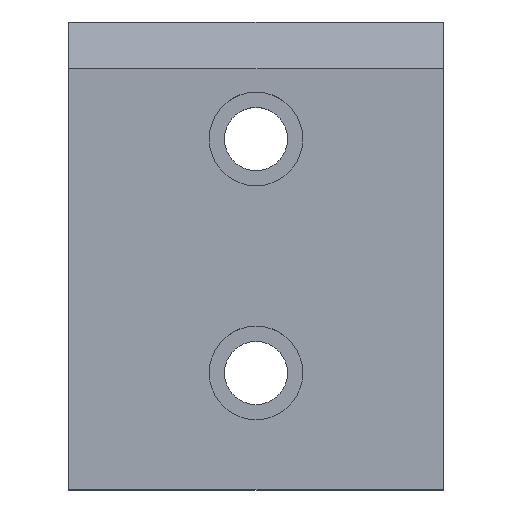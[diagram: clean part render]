
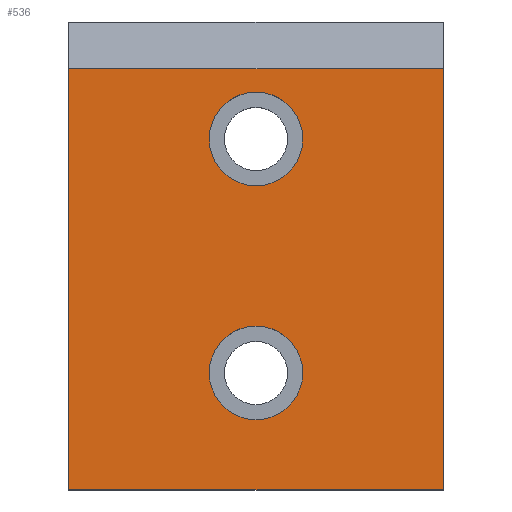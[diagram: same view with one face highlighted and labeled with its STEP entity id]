
A CAD part, top view. The second image highlights one B-rep face of the part: STEP entity #536.
In plain terms, the highlighted planar face has unit normal (0, 0, 1).
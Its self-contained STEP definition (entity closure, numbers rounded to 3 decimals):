
#2 = EDGE_CURVE ( 'NONE', #275, #46, #84, .T. ) ;
#13 = VERTEX_POINT ( 'NONE', #318 ) ;
#16 = ORIENTED_EDGE ( 'NONE', *, *, #2, .T. ) ;
#17 = CARTESIAN_POINT ( 'NONE',  ( 32.034, -19.498, 20. ) ) ;
#25 = CARTESIAN_POINT ( 'NONE',  ( -17.966, -39.498, 20. ) ) ;
#29 = AXIS2_PLACEMENT_3D ( 'NONE', #563, #171, #163 ) ;
#43 = AXIS2_PLACEMENT_3D ( 'NONE', #296, #298, #299 ) ;
#46 = VERTEX_POINT ( 'NONE', #468 ) ;
#52 = CARTESIAN_POINT ( 'NONE',  ( -7.966, 10.502, 20. ) ) ;
#54 = VERTEX_POINT ( 'NONE', #103 ) ;
#62 = EDGE_CURVE ( 'NONE', #13, #550, #144, .T. ) ;
#67 = VERTEX_POINT ( 'NONE', #575 ) ;
#77 = EDGE_CURVE ( 'NONE', #67, #275, #166, .T. ) ;
#81 = DIRECTION ( 'NONE',  ( 0., 0., 1. ) ) ;
#84 = LINE ( 'NONE', #17, #88 ) ;
#86 = AXIS2_PLACEMENT_3D ( 'NONE', #562, #494, #501 ) ;
#88 = VECTOR ( 'NONE', #525, 1000. ) ;
#89 = DIRECTION ( 'NONE',  ( 1., 0., 0. ) ) ;
#103 = CARTESIAN_POINT ( 'NONE',  ( 2.034, 10.502, 20. ) ) ;
#122 = ORIENTED_EDGE ( 'NONE', *, *, #482, .F. ) ;
#124 = CIRCLE ( 'NONE', #315, 10. ) ;
#127 = ORIENTED_EDGE ( 'NONE', *, *, #306, .F. ) ;
#134 = CARTESIAN_POINT ( 'NONE',  ( -7.966, 25.502, 20. ) ) ;
#139 = CARTESIAN_POINT ( 'NONE',  ( -17.966, 10.502, 20. ) ) ;
#144 = CIRCLE ( 'NONE', #86, 10. ) ;
#155 = DIRECTION ( 'NONE',  ( -1., 0., 0. ) ) ;
#158 = ORIENTED_EDGE ( 'NONE', *, *, #62, .F. ) ;
#163 = DIRECTION ( 'NONE',  ( 1., 0., 0. ) ) ;
#166 = LINE ( 'NONE', #246, #182 ) ;
#171 = DIRECTION ( 'NONE',  ( 0., 0., 1. ) ) ;
#177 = ORIENTED_EDGE ( 'NONE', *, *, #77, .T. ) ;
#182 = VECTOR ( 'NONE', #89, 1000. ) ;
#183 = AXIS2_PLACEMENT_3D ( 'NONE', #52, #81, #513 ) ;
#189 = VECTOR ( 'NONE', #316, 1000. ) ;
#193 = VERTEX_POINT ( 'NONE', #139 ) ;
#195 = EDGE_CURVE ( 'NONE', #46, #488, #321, .T. ) ;
#200 = EDGE_LOOP ( 'NONE', ( #122, #127 ) ) ;
#204 = FACE_BOUND ( 'NONE', #200, .T. ) ;
#214 = FACE_BOUND ( 'NONE', #430, .T. ) ;
#241 = CIRCLE ( 'NONE', #183, 10. ) ;
#246 = CARTESIAN_POINT ( 'NONE',  ( -7.966, -64.498, 20. ) ) ;
#256 = CARTESIAN_POINT ( 'NONE',  ( 32.034, -64.498, 20. ) ) ;
#258 = FACE_OUTER_BOUND ( 'NONE', #416, .T. ) ;
#275 = VERTEX_POINT ( 'NONE', #256 ) ;
#296 = CARTESIAN_POINT ( 'NONE',  ( -7.966, 10.502, 20. ) ) ;
#298 = DIRECTION ( 'NONE',  ( 0., 0., 1. ) ) ;
#299 = DIRECTION ( 'NONE',  ( 1., 0., 0. ) ) ;
#306 = EDGE_CURVE ( 'NONE', #193, #54, #399, .T. ) ;
#315 = AXIS2_PLACEMENT_3D ( 'NONE', #519, #503, #477 ) ;
#316 = DIRECTION ( 'NONE',  ( 0., -1., 0. ) ) ;
#318 = CARTESIAN_POINT ( 'NONE',  ( 2.034, -39.498, 20. ) ) ;
#321 = LINE ( 'NONE', #134, #324 ) ;
#324 = VECTOR ( 'NONE', #155, 1000. ) ;
#369 = ORIENTED_EDGE ( 'NONE', *, *, #520, .T. ) ;
#391 = CARTESIAN_POINT ( 'NONE',  ( -47.966, -19.498, 20. ) ) ;
#399 = CIRCLE ( 'NONE', #43, 10. ) ;
#416 = EDGE_LOOP ( 'NONE', ( #16, #554, #369, #177 ) ) ;
#430 = EDGE_LOOP ( 'NONE', ( #158, #454 ) ) ;
#454 = ORIENTED_EDGE ( 'NONE', *, *, #571, .F. ) ;
#468 = CARTESIAN_POINT ( 'NONE',  ( 32.034, 25.502, 20. ) ) ;
#477 = DIRECTION ( 'NONE',  ( 1., 0., 0. ) ) ;
#482 = EDGE_CURVE ( 'NONE', #54, #193, #241, .T. ) ;
#488 = VERTEX_POINT ( 'NONE', #534 ) ;
#494 = DIRECTION ( 'NONE',  ( 0., 0., 1. ) ) ;
#501 = DIRECTION ( 'NONE',  ( 1., 0., 0. ) ) ;
#503 = DIRECTION ( 'NONE',  ( 0., 0., 1. ) ) ;
#513 = DIRECTION ( 'NONE',  ( 1., 0., 0. ) ) ;
#514 = PLANE ( 'NONE',  #29 ) ;
#519 = CARTESIAN_POINT ( 'NONE',  ( -7.966, -39.498, 20. ) ) ;
#520 = EDGE_CURVE ( 'NONE', #488, #67, #537, .T. ) ;
#525 = DIRECTION ( 'NONE',  ( 0., 1., 0. ) ) ;
#534 = CARTESIAN_POINT ( 'NONE',  ( -47.966, 25.502, 20. ) ) ;
#536 = ADVANCED_FACE ( 'NONE', ( #258, #214, #204 ), #514, .T. ) ;
#537 = LINE ( 'NONE', #391, #189 ) ;
#550 = VERTEX_POINT ( 'NONE', #25 ) ;
#554 = ORIENTED_EDGE ( 'NONE', *, *, #195, .T. ) ;
#562 = CARTESIAN_POINT ( 'NONE',  ( -7.966, -39.498, 20. ) ) ;
#563 = CARTESIAN_POINT ( 'NONE',  ( 0., 0., 20. ) ) ;
#571 = EDGE_CURVE ( 'NONE', #550, #13, #124, .T. ) ;
#575 = CARTESIAN_POINT ( 'NONE',  ( -47.966, -64.498, 20. ) ) ;
